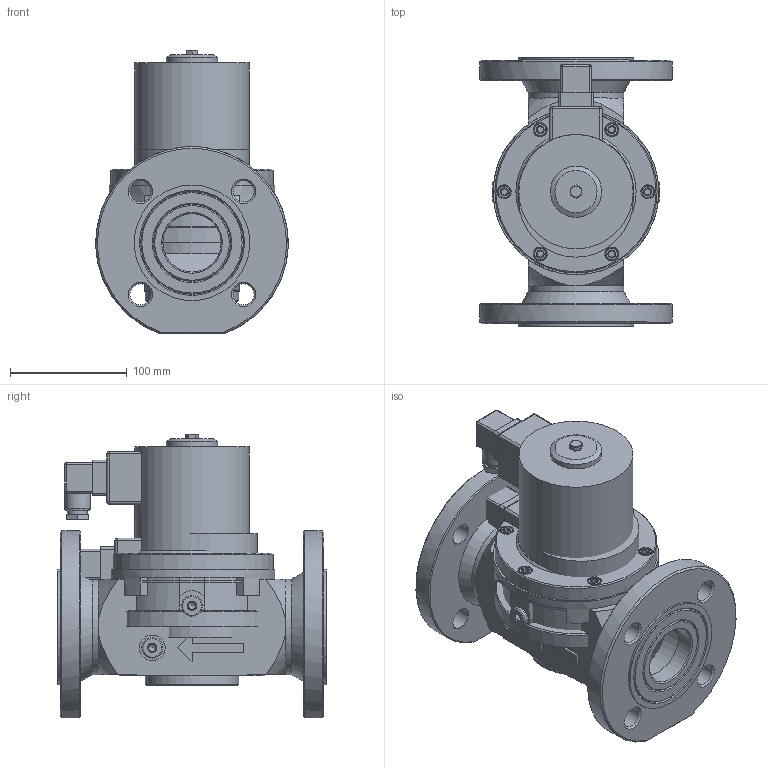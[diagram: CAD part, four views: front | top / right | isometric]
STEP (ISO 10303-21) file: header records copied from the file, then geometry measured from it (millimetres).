
FILE_DESCRIPTION( ( 'Unknown' ), '1' );
FILE_NAME( 'D:/Wyroby/Widoki gabarytowe/Zawory ZEF/ZEF_50k/ZEF_50k.stp', 'Unknown', ( 'Unknown' ), ( 'Unknown' ), 'XStep 1.0', 'Unknown', ' ' );
FILE_SCHEMA( ( 'CONFIG_CONTROL_DESIGN' ) );
Length unit declared in the file: millimetre
Products named in the file (50): Wa_044_01_04; Wa_053_01_05; Wa_044_01_05; Wa_053_01_04; Assem1; Wa_046_01_00; Wa_046_01_02; Wa_031_01_05_001got; Wa_044_01_05bez_ko³ka; Ko³ek6x45; Wa_044_01_04_001zaci從i黎y; Wa_031_01_02_002; Wa_044_01_04_002; Wa_086_01_00_002; Wa_065_01_02_004; Wa_044_01_02_004; Wa_031_01_00_007; Wa_031_01_00_008; Wa_044_01_04_003; Wa_014_01_00_003彡i從i黎y27,5; Oring12x2彡i從i黎y1,6; Wa_044_01_02_003zaci從i黎a; Wa_031_01_04_002got; Wa_031_01_04_001; Wa_046_01_02bez_gniazda; Wa_031_01_01_001gotoweZEF; Wa_044_01_00_001; Œ-008ImbusM6x16; Wa_031_01_00_012; Wa_031_01_00_010; T-026; K-006got.; Wa_031_01_00_005; Œ-006m6x12szeœc.; Wa_044_01_00_004; Wa_044_01_00_002彡i從i黎a22; Wa_035_01_00_001彡i從i黎a30; Cewka_40-65
Bounding box: 165 x 230 x 243.2 mm (x, y, z)
Volume: 7751641.5 mm3; surface area: 1744178.1 mm2
Topology: 154 solids, 154 shells, 2874 faces, 6252 edges, 3996 vertices
Faces by surface type: plane 1320, cylinder 826, cone 640, torus 61, sphere 21, bspline 6
Full cylindrical faces by diameter (mm): 0.8 x3, 2 x15, 2.1 x8, 2.5 x36, 3 x3, 3.5 x7, 4 x7, 4.2 x10, 4.917 x29, 5 x4, 6 x31, 6.2 x13, 6.5 x27, 6.6 x18, 8 x9, 10 x33, 10.917 x4, 11 x18, 11.445 x16, 12 x13, 12.1 x4, 13 x12, 13.8 x12, 14 x4, 16 x4, 17 x2, 18 x56, 18.5 x4, 18.7 x4, 22 x10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
Entity records: 25078 total; most frequent: CARTESIAN_POINT 6937, DIRECTION 3476, ORIENTED_EDGE 2510, AXIS2_PLACEMENT_3D 1522, EDGE_LOOP 1377, EDGE_CURVE 1255, FACE_OUTER_BOUND 1015, VERTEX_POINT 1003
